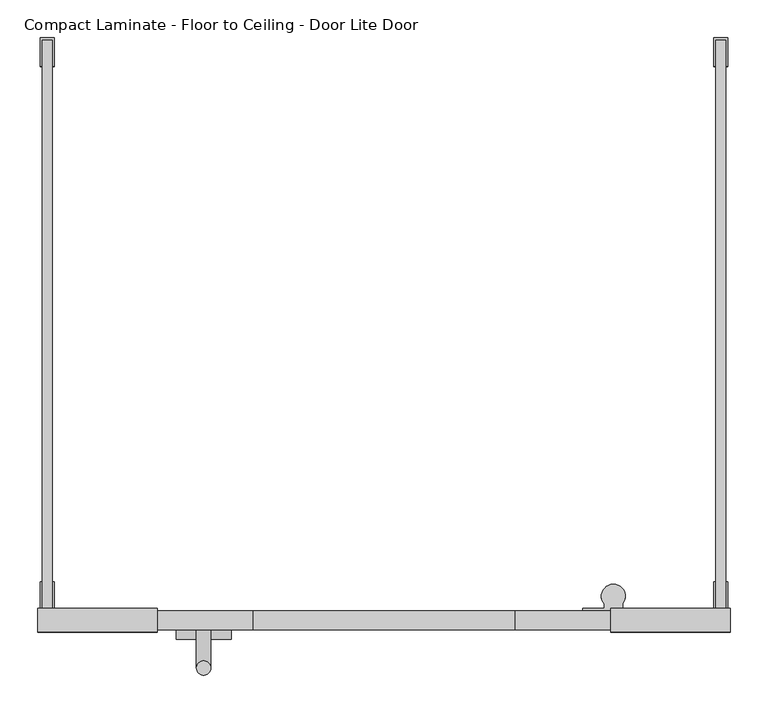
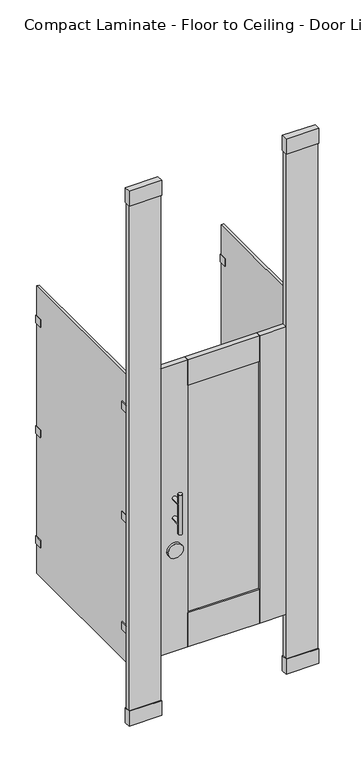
"""IFC4 building model written with IfcOpenShell, lengths in millimetres: proxy geometry, Toilet-Partition_Ironwood-Mfg_Compact-Laminate : Compact Laminate - Floor to Ceiling - Door Lite Door."""

import ifcopenshell
import ifcopenshell.guid

model = None  # the IFC model being written
_history = None  # IfcOwnerHistory: only IFC2X3 demands one
_inside = {}  # id of a spatial element -> (the spatial element, [elements in it])
_under = {}  # id of a project, library or spatial element -> (it, [spatial elements below it])
_declared = {}  # id of a project -> (the project, [libraries it declares])
_typed = {}  # id of a type object -> (the type object, [elements of that type])
_made_of = {}  # id of a material, layer set ... -> (it, [elements and type objects made of it])


def new_model(schema):
    """Start an empty IFC model of exactly this schema.

    Asked for "IFC4X3", IfcOpenShell would pick the latest addendum, in which some entities
    have other attributes; the version numbers below select the first issue.
    IFC2X3 requires an IfcOwnerHistory on every rooted entity: one is made here for all.
    """
    global model, _history
    if schema == "IFC4X3":
        model = ifcopenshell.file(schema_version=(4, 3, 0, 0))
    else:
        model = ifcopenshell.file(schema=schema)
    _inside.clear()
    _under.clear()
    _declared.clear()
    _typed.clear()
    _made_of.clear()
    _history = None
    if model.schema == "IFC2X3":
        org = make("IfcOrganization", Name="unknown")
        user = make(
            "IfcPersonAndOrganization",
            ThePerson=make("IfcPerson", FamilyName="unknown"),
            TheOrganization=org,
        )
        app = make(
            "IfcApplication",
            ApplicationDeveloper=org,
            Version="unknown",
            ApplicationFullName="unknown",
            ApplicationIdentifier="unknown",
        )
        _history = make(
            "IfcOwnerHistory",
            OwningUser=user,
            OwningApplication=app,
            ChangeAction="ADDED",
            CreationDate=0,
        )
    return model


def make(cls, **values):
    """One entity of the class cls with the attributes given. An attribute that is None is left unset."""
    return model.create_entity(
        cls, **{name: value for name, value in values.items() if value is not None}
    )


def rooted(cls, **values):
    """An entity with a GlobalId (a new one), such as an element, a storey or a relation."""
    return make(cls, GlobalId=ifcopenshell.guid.new(), OwnerHistory=_history, **values)


def si_unit(unit_type, name, prefix=None):
    """IfcSIUnit, for example si_unit("LENGTHUNIT", "METRE", prefix="MILLI")."""
    return make("IfcSIUnit", UnitType=unit_type, Prefix=prefix, Name=name)


def assignment(units):
    """IfcUnitAssignment: the units of a project."""
    return None if units is None else make("IfcUnitAssignment", Units=units)


def point(xyz):
    """IfcCartesianPoint."""
    return None if xyz is None else make("IfcCartesianPoint", Coordinates=xyz)


def direction(xyz):
    """IfcDirection."""
    return None if xyz is None else make("IfcDirection", DirectionRatios=xyz)


def frame(location, z_axis=None, x_axis=None):
    """IfcAxis2Placement3D, a coordinate frame: its origin and axes. An axis left out is left unset."""
    return make(
        "IfcAxis2Placement3D",
        Location=point(location),
        Axis=direction(z_axis),
        RefDirection=direction(x_axis),
    )


def frame_2d(location, x_axis=None):
    """IfcAxis2Placement2D, a coordinate frame in the plane: its origin and x axis."""
    return make(
        "IfcAxis2Placement2D", Location=point(location), RefDirection=direction(x_axis)
    )


def origin():
    """The frame at (0, 0, 0) with its axes left unset."""
    return frame((0.0, 0.0, 0.0))


def origin_with_axes():
    """The frame at (0, 0, 0) with the z axis (0, 0, 1) and the x axis (1, 0, 0) written out."""
    return frame((0.0, 0.0, 0.0), z_axis=(0.0, 0.0, 1.0), x_axis=(1.0, 0.0, 0.0))


def place(relative_to, where):
    """IfcLocalPlacement: puts the frame where relative to a parent placement (None: the world)."""
    return make(
        "IfcLocalPlacement", PlacementRelTo=relative_to, RelativePlacement=where
    )


def context(
    kind, dimensions, precision=None, world=None, true_north=None, identifier=None
):
    """IfcGeometricRepresentationContext, for example the 3D "Model" context."""
    return make(
        "IfcGeometricRepresentationContext",
        ContextIdentifier=identifier,
        ContextType=kind,
        CoordinateSpaceDimension=dimensions,
        Precision=precision,
        WorldCoordinateSystem=world,
        TrueNorth=true_north,
    )


def project(units=None, contexts=None):
    """IfcProject with its units and contexts."""
    return rooted(
        "IfcProject",
        Name="project",
        RepresentationContexts=contexts,
        UnitsInContext=assignment(units),
    )


def spatial(cls, under=None, at=None, **own):
    """A site, building, storey or space (cls), placed at a placement, below another one or the project."""
    s = rooted(cls, ObjectPlacement=at, **own)
    if under is not None:
        _under.setdefault(under.id(), (under, []))[1].append(s)
    return s


def polyline(points):
    """IfcPolyline through the points."""
    return make("IfcPolyline", Points=[point(p) for p in points])


def circle_curve(where, radius):
    """IfcCircle in the frame where."""
    return make("IfcCircle", Position=where, Radius=radius)


def ellipse_curve(where, semi_axis1, semi_axis2):
    """IfcEllipse in the frame where."""
    return make(
        "IfcEllipse", Position=where, SemiAxis1=semi_axis1, SemiAxis2=semi_axis2
    )


def trimmed(basis, trim1, trim2, sense, master):
    """IfcTrimmedCurve: the piece of a basis curve between two trims."""
    return make(
        "IfcTrimmedCurve",
        BasisCurve=basis,
        Trim1=trim1,
        Trim2=trim2,
        SenseAgreement=sense,
        MasterRepresentation=master,
    )


def segment(curve, same_sense, transition):
    """IfcCompositeCurveSegment."""
    return make(
        "IfcCompositeCurveSegment",
        Transition=transition,
        SameSense=same_sense,
        ParentCurve=curve,
    )


def composite_curve(segments, self_intersect=None):
    """IfcCompositeCurve: segments joined end to end."""
    return make("IfcCompositeCurve", Segments=segments, SelfIntersect=self_intersect)


def outline(outer, holes=None, kind="AREA"):
    """IfcArbitraryClosedProfileDef: a profile drawn as a closed curve; with holes, ...WithVoids."""
    if holes is None:
        return make("IfcArbitraryClosedProfileDef", ProfileType=kind, OuterCurve=outer)
    return make(
        "IfcArbitraryProfileDefWithVoids",
        ProfileType=kind,
        OuterCurve=outer,
        InnerCurves=holes,
    )


def extrude(swept, where, along, depth):
    """IfcExtrudedAreaSolid: the profile swept, set in the frame where, extruded along a direction by depth."""
    return make(
        "IfcExtrudedAreaSolid",
        SweptArea=swept,
        Position=where,
        ExtrudedDirection=direction(along),
        Depth=depth,
    )


def shape(context_of_items, identifier, shape_type, items):
    """IfcShapeRepresentation: the items that make up one representation, for example the "Body"."""
    return make(
        "IfcShapeRepresentation",
        ContextOfItems=context_of_items,
        RepresentationIdentifier=identifier,
        RepresentationType=shape_type,
        Items=items,
    )


def source(mapping_origin, context_of_items, identifier, shape_type, items):
    """IfcRepresentationMap: a shape defined once, which mapped items show again and again."""
    return make(
        "IfcRepresentationMap",
        MappingOrigin=mapping_origin,
        MappedRepresentation=shape(context_of_items, identifier, shape_type, items),
    )


def transform(
    local_origin,
    x_axis=None,
    y_axis=None,
    z_axis=None,
    scale=None,
    scale2=None,
    scale3=None,
    uniform=True,
):
    """IfcCartesianTransformationOperator3D, or its non-uniform kind. x_axis, y_axis, z_axis: its Axis1, 2, 3."""
    if uniform:
        return make(
            "IfcCartesianTransformationOperator3D",
            Axis1=direction(x_axis),
            Axis2=direction(y_axis),
            LocalOrigin=point(local_origin),
            Scale=scale,
            Axis3=direction(z_axis),
        )
    return make(
        "IfcCartesianTransformationOperator3DnonUniform",
        Axis1=direction(x_axis),
        Axis2=direction(y_axis),
        LocalOrigin=point(local_origin),
        Scale=scale,
        Axis3=direction(z_axis),
        Scale2=scale2,
        Scale3=scale3,
    )


def mapped(mapping_source, mapping_target):
    """IfcMappedItem: shows the shape of a source again, moved by a transform."""
    return make(
        "IfcMappedItem", MappingSource=mapping_source, MappingTarget=mapping_target
    )


def made_of(thing, what):
    """Note that an element or type object is made of a material, layer set ...; save() writes the relation."""
    if what is not None:
        _made_of.setdefault(what.id(), (what, []))[1].append(thing)
    return thing


def element(
    cls,
    number,
    at=None,
    inside=None,
    cuts=None,
    type_object=None,
    material=None,
    context=None,
    identifier="Body",
    shape_type=None,
    held_by="IfcProductDefinitionShape",
    body=None,
    shapes=None,
    **own,
):
    """One element of the class cls, such as IfcWall. Its Tag is "e" and its number.

    at: its placement. inside: the storey or other place that contains it. cuts: it is an
    opening in that element (IfcRelVoidsElement). A single representation is given by context,
    identifier, shape_type and body (its items); several are given by shapes. held_by: the class
    of the entity that holds the representations. save() writes the other relations.
    """
    e = rooted(cls, Tag="e%d" % number, ObjectPlacement=at, **own)
    if body is not None:
        shapes = [shape(context, identifier, shape_type, body)]
    if shapes is not None:
        e.Representation = make(held_by, Representations=shapes)
    if inside is not None:
        _inside.setdefault(inside.id(), (inside, []))[1].append(e)
    if cuts is not None:
        rooted(
            "IfcRelVoidsElement", RelatingBuildingElement=cuts, RelatedOpeningElement=e
        )
    if type_object is not None:
        _typed.setdefault(type_object.id(), (type_object, []))[1].append(e)
    return made_of(e, material)


def aggregate(whole, parts):
    """IfcRelAggregates: a whole, such as a stair, and the parts it consists of."""
    return rooted("IfcRelAggregates", RelatingObject=whole, RelatedObjects=parts)


def save(model, path):
    """Write the relations noted so far, then the file.

    IfcRelAggregates (storeys below a building ...), IfcRelContainedInSpatialStructure (elements
    in a storey), IfcRelDefinesByType, IfcRelAssociatesMaterial and IfcRelDeclares: one each for
    every whole, place, type object, material and project.
    """
    for whole, parts in _under.values():
        aggregate(whole, parts)
    for where, things in _inside.values():
        rooted(
            "IfcRelContainedInSpatialStructure",
            RelatedElements=things,
            RelatingStructure=where,
        )
    for kind, things in _typed.values():
        rooted("IfcRelDefinesByType", RelatedObjects=things, RelatingType=kind)
    for what, things in _made_of.values():
        rooted("IfcRelAssociatesMaterial", RelatedObjects=things, RelatingMaterial=what)
    for by, libraries in _declared.values():
        rooted("IfcRelDeclares", RelatingContext=by, RelatedDefinitions=libraries)
    model.write(path)


def plane_surface(at):
    """IfcPlane: the flat surface through the origin of the frame at, square to its z axis."""
    return make("IfcPlane", Position=at)


def cylinder_surface(at, radius):
    """IfcCylindricalSurface: all points at the distance radius from the z axis of the frame at."""
    return make("IfcCylindricalSurface", Position=at, Radius=radius)


def advanced_brep(points, edges, surfaces, faces):
    """IfcAdvancedBrep: a solid bounded by faces that lie on surfaces and meet in shared edges.

    An edge is (start, end): straight between two places in points (the first is 0);
    or (start, end, curve); or (start, end, curve, False) where it runs against its curve.
    A face is (place in surfaces, loops), or (place, loops, False) where it looks against
    its surface's normal. A loop lists edges by number (the first is 1), with a minus sign
    where the edge is run from its end to its start. The first loop is the outer one.
    """
    corners = [point(p) for p in points]
    vertices = [make("IfcVertexPoint", VertexGeometry=c) for c in corners]
    made = []
    for start, end, *more in edges:
        made.append(
            make(
                "IfcEdgeCurve",
                EdgeStart=vertices[start],
                EdgeEnd=vertices[end],
                EdgeGeometry=more[0] if more else make("IfcPolyline", Points=[corners[start], corners[end]]),
                SameSense=more[1] if len(more) > 1 else True,
            )
        )
    hull = []
    for where, loops, *sense in faces:
        bounds = []
        for j, loop in enumerate(loops):
            ring = [make("IfcOrientedEdge", EdgeElement=made[abs(k) - 1], Orientation=k > 0) for k in loop]
            bounds.append(
                make(
                    "IfcFaceOuterBound" if j == 0 else "IfcFaceBound",
                    Bound=make("IfcEdgeLoop", EdgeList=ring),
                    Orientation=True,
                )
            )
        hull.append(make("IfcAdvancedFace", Bounds=bounds, FaceSurface=surfaces[where], SameSense=sense[0] if sense else True))
    return make("IfcAdvancedBrep", Outer=make("IfcClosedShell", CfsFaces=hull))


def compact_laminate_floor_to_ceiling_door_lite_door_47c44b2a(model_context):
    return source(origin(), model_context, "Body", "SolidModel", [
        extrude(outline(polyline([(542.925, -790.575), (542.925, -758.825), (701.675, -758.825), (701.675, -790.575), (542.925, -790.575)])), frame((0.0, 0.0, 2667.0), z_axis=(0.0, 0.0, 1.0), x_axis=(1.0, 0.0, 0.0)), (0.0, 0.0, 1.0), 76.1999999),
        extrude(outline(polyline([(701.675, -758.825), (701.675, -790.575), (542.925, -790.575), (542.925, -758.825), (701.675, -758.825)])), origin_with_axes(), (0.0, 0.0, 1.0), 76.2),
        extrude(outline(polyline([(698.5, -762.0), (698.5, -787.4), (546.1, -787.4), (546.1, -762.0), (698.5, -762.0)])), origin_with_axes(), (0.0, 0.0, 1.0), 2667.0),
        extrude(outline(polyline([(-60.325, -790.575), (-219.075, -790.575), (-219.075, -758.825), (-60.325, -758.825), (-60.325, -790.575)])), frame((0.0, 0.0, 2667.0), z_axis=(0.0, 0.0, 1.0), x_axis=(1.0, 0.0, 0.0)), (0.0, 0.0, 1.0), 76.1999999),
        extrude(outline(polyline([(-219.075, -758.825), (-60.325, -758.825), (-60.325, -790.575), (-219.075, -790.575), (-219.075, -758.825)])), origin_with_axes(), (0.0, 0.0, 1.0), 76.2),
        extrude(outline(polyline([(-215.9, -762.0), (-63.5, -762.0), (-63.5, -787.4), (-215.9, -787.4), (-215.9, -762.0)])), origin_with_axes(), (0.0, 0.0, 1.0), 2667.0),
        extrude(outline(polyline([(415.925, -779.4625), (66.675, -779.4625), (66.675, -769.9375), (415.925, -769.9375), (415.925, -779.4625)])), frame((0.0, 0.0, 479.425), z_axis=(0.0, 0.0, 1.0), x_axis=(1.0, 0.0, 0.0)), (0.0, 0.0, 1.0), 1168.4),
        extrude(outline(polyline([(66.675, -762.0), (66.675, -787.4), (-63.5, -787.4), (-63.5, -762.0), (66.675, -762.0)])), frame((0.0, 0.0, 304.8), z_axis=(0.0, 0.0, 1.0), x_axis=(1.0, 0.0, 0.0)), (0.0, 0.0, 1.0), 1473.2),
        extrude(outline(polyline([(415.925, -762.0), (546.1, -762.0), (546.1, -787.4), (415.925, -787.4), (415.925, -762.0)])), frame((0.0, 0.0, 304.8), z_axis=(0.0, 0.0, 1.0), x_axis=(1.0, 0.0, 0.0)), (0.0, 0.0, 1.0), 1473.2),
        extrude(outline(polyline([(415.925, -762.0), (415.925, -787.4), (66.675, -787.4), (66.675, -762.0), (415.925, -762.0)])), frame((0.0, 0.0, 1647.825), z_axis=(0.0, 0.0, 1.0), x_axis=(1.0, 0.0, 0.0)), (0.0, 0.0, 1.0), 130.175),
        extrude(outline(polyline([(415.925, -762.0), (415.925, -787.4), (66.675, -787.4), (66.675, -762.0), (415.925, -762.0)])), frame((0.0, 0.0, 304.8), z_axis=(0.0, 0.0, 1.0), x_axis=(1.0, 0.0, 0.0)), (0.0, 0.0, 1.0), 174.625),
        extrude(outline(composite_curve([segment(trimmed(circle_curve(frame_2d((827.0875, 1.5875)), 36.5125), [point((827.0875, -34.925))], [point((827.0875, 38.1))], False, "CARTESIAN"), True, "CONTINUOUS"), segment(trimmed(circle_curve(frame_2d((827.0875, 1.5875)), 36.5125), [point((827.0875, 38.1))], [point((827.0875, -34.925))], False, "CARTESIAN"), True, "CONTINUOUS")], self_intersect=False)), frame((0.0, -800.1, 0.0), z_axis=(0.0, 1.0, 0.0), x_axis=(0.0, 0.0, 1.0)), (0.0, 0.0, 1.0), 12.7),
        advanced_brep(
        [(-7.9375, -787.4, 1092.2), (11.1125, -787.4, 1092.2), (-7.9375, -787.4, 990.6), (11.1125, -787.4, 990.6), (11.1125, -838.2, 1092.2), (-7.9375, -838.2, 1092.2), (11.1125, -838.2, 990.6), (-7.9375, -838.2, 990.6), (-7.9375, -838.2, 1143.0), (11.1125, -838.2, 1143.0), (-7.9375, -838.2, 939.8), (11.1125, -838.2, 939.8)],
        [
            (0, 1, circle_curve(frame((1.5875, -787.4, 1092.2), z_axis=(0.0, 1.0, 0.0), x_axis=(1.0, 0.0, 0.0)), 9.525)),
            (1, 0, circle_curve(frame((1.5875, -787.4, 1092.2), z_axis=(0.0, 1.0, 0.0), x_axis=(1.0, 0.0, 0.0)), 9.525)),
            (2, 3, circle_curve(frame((1.5875, -787.4, 990.6), z_axis=(0.0, 1.0, 0.0), x_axis=(1.0, 0.0, 0.0)), 9.525)),
            (3, 2, circle_curve(frame((1.5875, -787.4, 990.6), z_axis=(0.0, 1.0, 0.0), x_axis=(1.0, 0.0, 0.0)), 9.525)),
            (1, 4),
            (4, 5, ellipse_curve(frame((1.5875, -838.2, 1092.2), z_axis=(0.0, 0.7071067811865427, 0.7071067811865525), x_axis=(0.0, -0.7071067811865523, 0.7071067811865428)), 13.4703842, 9.525)),
            (5, 0),
            (5, 4, ellipse_curve(frame((1.5875, -838.2, 1092.2), z_axis=(0.0, 0.7071067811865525, -0.7071067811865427), x_axis=(0.0, -0.7071067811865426, -0.7071067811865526)), 13.4703842, 9.525)),
            (3, 6),
            (6, 7, ellipse_curve(frame((1.5875, -838.2, 990.6), z_axis=(0.0, 0.7071067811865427, 0.7071067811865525), x_axis=(0.0, -0.7071067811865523, 0.7071067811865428)), 13.4703842, 9.525)),
            (7, 2),
            (7, 6, ellipse_curve(frame((1.5875, -838.2, 990.6), z_axis=(0.0, 0.7071067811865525, -0.7071067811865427), x_axis=(0.0, -0.7071067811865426, -0.7071067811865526)), 13.4703842, 9.525)),
            (8, 9, circle_curve(frame((1.5875, -838.2, 1143.0), z_axis=(0.0, 0.0, 1.0), x_axis=(1.0, 0.0, 0.0)), 9.525)),
            (9, 8, circle_curve(frame((1.5875, -838.2, 1143.0), z_axis=(0.0, 0.0, 1.0), x_axis=(1.0, 0.0, 0.0)), 9.525)),
            (10, 11, circle_curve(frame((1.5875, -838.2, 939.8), z_axis=(0.0, 0.0, -1.0), x_axis=(1.0, 0.0, 0.0)), 9.525)),
            (11, 10, circle_curve(frame((1.5875, -838.2, 939.8), z_axis=(0.0, 0.0, -1.0), x_axis=(1.0, 0.0, 0.0)), 9.525)),
            (8, 5),
            (5, 7),
            (7, 10),
            (11, 6),
            (6, 4),
            (4, 9),
        ],
        [
            plane_surface(frame((11.1125, -787.4, 1092.2), z_axis=(0.0, 1.0, 0.0), x_axis=(0.0, 0.0, -1.0))),
            cylinder_surface(frame((1.5875, -787.4, 1092.2), z_axis=(0.0, -1.0, 0.0), x_axis=(1.0, 0.0, 0.0)), 9.525),
            cylinder_surface(frame((1.5875, -787.4, 990.6), z_axis=(0.0, -1.0, 0.0), x_axis=(1.0, 0.0, 0.0)), 9.525),
            plane_surface(frame((11.1125, -838.2, 1143.0), z_axis=(0.0, 0.0, 1.0), x_axis=(0.0, 1.0, 0.0))),
            plane_surface(frame((11.1125, -838.2, 939.8), z_axis=(0.0, 0.0, -1.0), x_axis=(0.0, -1.0, 0.0))),
            cylinder_surface(frame((1.5875, -838.2, 939.8), z_axis=(0.0, 0.0, 1.0), x_axis=(1.0, 0.0, 0.0)), 9.525),
        ],
        [
            (0, [[1, 2]]),
            (0, [[3, 4]]),
            (1, [[-2, 5, 6, 7]]),
            (1, [[-1, -7, 8, -5]]),
            (2, [[-4, 9, 10, 11]]),
            (2, [[-3, -11, 12, -9]]),
            (3, [[13, 14]]),
            (4, [[15, 16]]),
            (5, [[-13, 17, 18, 19, -16, 20, 21, 22]]),
            (5, [[-14, -22, -8, -17]]),
            (5, [[-15, -19, -10, -20]]),
            (5, [[-18, -6, -21, -12]]),
        ],
    ),
        extrude(outline(composite_curve([segment(polyline([(581.3737081, -762.0), (505.1737081, -762.0), (505.1737081, -758.825), (533.7487081, -758.825), (533.7487081, -752.9581331)]), True, "CONTINUOUS"), segment(trimmed(circle_curve(frame_2d((546.1, -742.8902139)), 15.9347861), [point((533.7487081, -752.9581331))], [point((558.4512919, -752.9581331))], False, "CARTESIAN"), True, "CONTINUOUS"), segment(polyline([(558.4512919, -752.9581331), (558.4512919, -758.825), (581.3737081, -758.825), (581.3737081, -762.0)]), True, "CONTINUOUS")], self_intersect=False)), frame((0.0, 0.0, 1574.8), z_axis=(0.0, 0.0, 1.0), x_axis=(1.0, 0.0, 0.0)), (0.0, 0.0, 1.0), 63.5),
        extrude(outline(composite_curve([segment(polyline([(581.3737081, -762.0), (505.1737081, -762.0), (505.1737081, -758.825), (533.7487081, -758.825), (533.7487081, -752.9581331)]), True, "CONTINUOUS"), segment(trimmed(circle_curve(frame_2d((546.1, -742.8902139)), 15.9347861), [point((533.7487081, -752.9581331))], [point((558.4512919, -752.9581331))], False, "CARTESIAN"), True, "CONTINUOUS"), segment(polyline([(558.4512919, -752.9581331), (558.4512919, -758.825), (581.3737081, -758.825), (581.3737081, -762.0)]), True, "CONTINUOUS")], self_intersect=False)), frame((0.0, 0.0, 1009.6500001), z_axis=(0.0, 0.0, 1.0), x_axis=(1.0, 0.0, 0.0)), (0.0, 0.0, 1.0), 63.5),
        extrude(outline(composite_curve([segment(polyline([(581.3737081, -762.0), (505.1737081, -762.0), (505.1737081, -758.825), (533.7487081, -758.825), (533.7487081, -752.9581331)]), True, "CONTINUOUS"), segment(trimmed(circle_curve(frame_2d((546.1, -742.8902139)), 15.9347861), [point((533.7487081, -752.9581331))], [point((558.4512919, -752.9581331))], False, "CARTESIAN"), True, "CONTINUOUS"), segment(polyline([(558.4512919, -752.9581331), (558.4512919, -758.825), (581.3737081, -758.825), (581.3737081, -762.0)]), True, "CONTINUOUS")], self_intersect=False)), frame((0.0, 0.0, 444.5), z_axis=(0.0, 0.0, 1.0), x_axis=(1.0, 0.0, 0.0)), (0.0, 0.0, 1.0), 63.5),
        extrude(outline(polyline([(682.498, -723.9), (682.498, -758.825), (695.198, -758.825), (695.198, -723.9), (698.373, -723.9), (698.373, -762.0), (679.323, -762.0), (679.323, -723.9), (682.498, -723.9)])), frame((0.0, 0.0, 1587.8188137), z_axis=(0.0, 0.0, 1.0), x_axis=(1.0, 0.0, 0.0)), (0.0, 0.0, 1.0), 38.1),
        extrude(outline(polyline([(682.498, -38.1), (679.323, -38.1), (679.323, 0.0), (698.373, 0.0), (698.373, -38.1), (695.198, -38.1), (695.198, -3.175), (682.498, -3.175), (682.498, -38.1)])), frame((0.0, 0.0, 1587.8188137), z_axis=(0.0, 0.0, 1.0), x_axis=(1.0, 0.0, 0.0)), (0.0, 0.0, 1.0), 38.1),
        extrude(outline(polyline([(682.498, -723.9), (682.498, -758.825), (695.198, -758.825), (695.198, -723.9), (698.373, -723.9), (698.373, -762.0), (679.323, -762.0), (679.323, -723.9), (682.498, -723.9)])), frame((0.0, 0.0, 1022.35), z_axis=(0.0, 0.0, 1.0), x_axis=(1.0, 0.0, 0.0)), (0.0, 0.0, 1.0), 38.1),
        extrude(outline(polyline([(682.498, -38.1), (679.323, -38.1), (679.323, 0.0), (698.373, 0.0), (698.373, -38.1), (695.198, -38.1), (695.198, -3.175), (682.498, -3.175), (682.498, -38.1)])), frame((0.0, 0.0, 1022.35), z_axis=(0.0, 0.0, 1.0), x_axis=(1.0, 0.0, 0.0)), (0.0, 0.0, 1.0), 38.1),
        extrude(outline(polyline([(682.498, -723.9), (682.498, -758.825), (695.198, -758.825), (695.198, -723.9), (698.373, -723.9), (698.373, -762.0), (679.323, -762.0), (679.323, -723.9), (682.498, -723.9)])), frame((0.0, 0.0, 457.2), z_axis=(0.0, 0.0, 1.0), x_axis=(1.0, 0.0, 0.0)), (0.0, 0.0, 1.0), 38.1),
        extrude(outline(polyline([(682.498, -38.1), (679.323, -38.1), (679.323, 0.0), (698.373, 0.0), (698.373, -38.1), (695.198, -38.1), (695.198, -3.175), (682.498, -3.175), (682.498, -38.1)])), frame((0.0, 0.0, 457.2), z_axis=(0.0, 0.0, 1.0), x_axis=(1.0, 0.0, 0.0)), (0.0, 0.0, 1.0), 38.1),
        extrude(outline(polyline([(-212.598, -723.9), (-212.598, -758.825), (-199.898, -758.825), (-199.898, -723.9), (-196.723, -723.9), (-196.723, -762.0), (-215.773, -762.0), (-215.773, -723.9), (-212.598, -723.9)])), frame((0.0, 0.0, 1587.8188137), z_axis=(0.0, 0.0, 1.0), x_axis=(1.0, 0.0, 0.0)), (0.0, 0.0, 1.0), 38.1),
        extrude(outline(polyline([(-212.598, -38.1), (-215.773, -38.1), (-215.773, 0.0), (-196.723, 0.0), (-196.723, -38.1), (-199.898, -38.1), (-199.898, -3.175), (-212.598, -3.175), (-212.598, -38.1)])), frame((0.0, 0.0, 1587.8188137), z_axis=(0.0, 0.0, 1.0), x_axis=(1.0, 0.0, 0.0)), (0.0, 0.0, 1.0), 38.1),
        extrude(outline(polyline([(-212.598, -723.9), (-212.598, -758.825), (-199.898, -758.825), (-199.898, -723.9), (-196.723, -723.9), (-196.723, -762.0), (-215.773, -762.0), (-215.773, -723.9), (-212.598, -723.9)])), frame((0.0, 0.0, 1022.35), z_axis=(0.0, 0.0, 1.0), x_axis=(1.0, 0.0, 0.0)), (0.0, 0.0, 1.0), 38.1),
        extrude(outline(polyline([(-212.598, -38.1), (-215.773, -38.1), (-215.773, 0.0), (-196.723, 0.0), (-196.723, -38.1), (-199.898, -38.1), (-199.898, -3.175), (-212.598, -3.175), (-212.598, -38.1)])), frame((0.0, 0.0, 1022.35), z_axis=(0.0, 0.0, 1.0), x_axis=(1.0, 0.0, 0.0)), (0.0, 0.0, 1.0), 38.1),
        extrude(outline(polyline([(-212.598, -723.9), (-212.598, -758.825), (-199.898, -758.825), (-199.898, -723.9), (-196.723, -723.9), (-196.723, -762.0), (-215.773, -762.0), (-215.773, -723.9), (-212.598, -723.9)])), frame((0.0, 0.0, 457.2), z_axis=(0.0, 0.0, 1.0), x_axis=(1.0, 0.0, 0.0)), (0.0, 0.0, 1.0), 38.1),
        extrude(outline(polyline([(-212.598, -38.1), (-215.773, -38.1), (-215.773, 0.0), (-196.723, 0.0), (-196.723, -38.1), (-199.898, -38.1), (-199.898, -3.175), (-212.598, -3.175), (-212.598, -38.1)])), frame((0.0, 0.0, 457.2), z_axis=(0.0, 0.0, 1.0), x_axis=(1.0, 0.0, 0.0)), (0.0, 0.0, 1.0), 38.1),
        extrude(outline(polyline([(-199.898, -3.175), (-199.898, -758.825), (-212.598, -758.825), (-212.598, -3.175), (-199.898, -3.175)])), frame((0.0, 0.0, 304.8), z_axis=(0.0, 0.0, 1.0), x_axis=(1.0, 0.0, 0.0)), (0.0, 0.0, 1.0), 1473.2),
        extrude(outline(polyline([(695.198, -3.175), (695.198, -758.825), (682.498, -758.825), (682.498, -3.175), (695.198, -3.175)])), frame((0.0, 0.0, 304.8), z_axis=(0.0, 0.0, 1.0), x_axis=(1.0, 0.0, 0.0)), (0.0, 0.0, 1.0), 1473.2),
    ])


if __name__ == "__main__":
    model = new_model("IFC4")
    model_context = context("Model", 3, world=origin())
    ifc_project = project(units=[si_unit("LENGTHUNIT", "METRE", prefix="MILLI")], contexts=[model_context])
    site = spatial("IfcSite", under=ifc_project)
    building = spatial("IfcBuilding", under=site)
    placement = place(None, origin())
    compact_laminate_floor_to_ceiling_door_lite_door_shape = compact_laminate_floor_to_ceiling_door_lite_door_47c44b2a(model_context)
    element("IfcBuildingElementProxy", 1, Name="Toilet-Partition_Ironwood-Mfg_Compact-Laminate : Compact Laminate - Floor to Ceiling - Door Lite Door", ObjectType="Toilet-Partition_Ironwood-Mfg_Compact-Laminate : Compact Laminate - Floor to Ceiling - Door Lite Door", at=placement, inside=building, context=model_context, shape_type="MappedRepresentation", body=[
        mapped(compact_laminate_floor_to_ceiling_door_lite_door_shape, transform((0.0, 0.0, 0.0), x_axis=(1.0, 0.0, 0.0), y_axis=(0.0, 1.0, 0.0), z_axis=(0.0, 0.0, 1.0))),
    ])
    save(model, "model.ifc")
